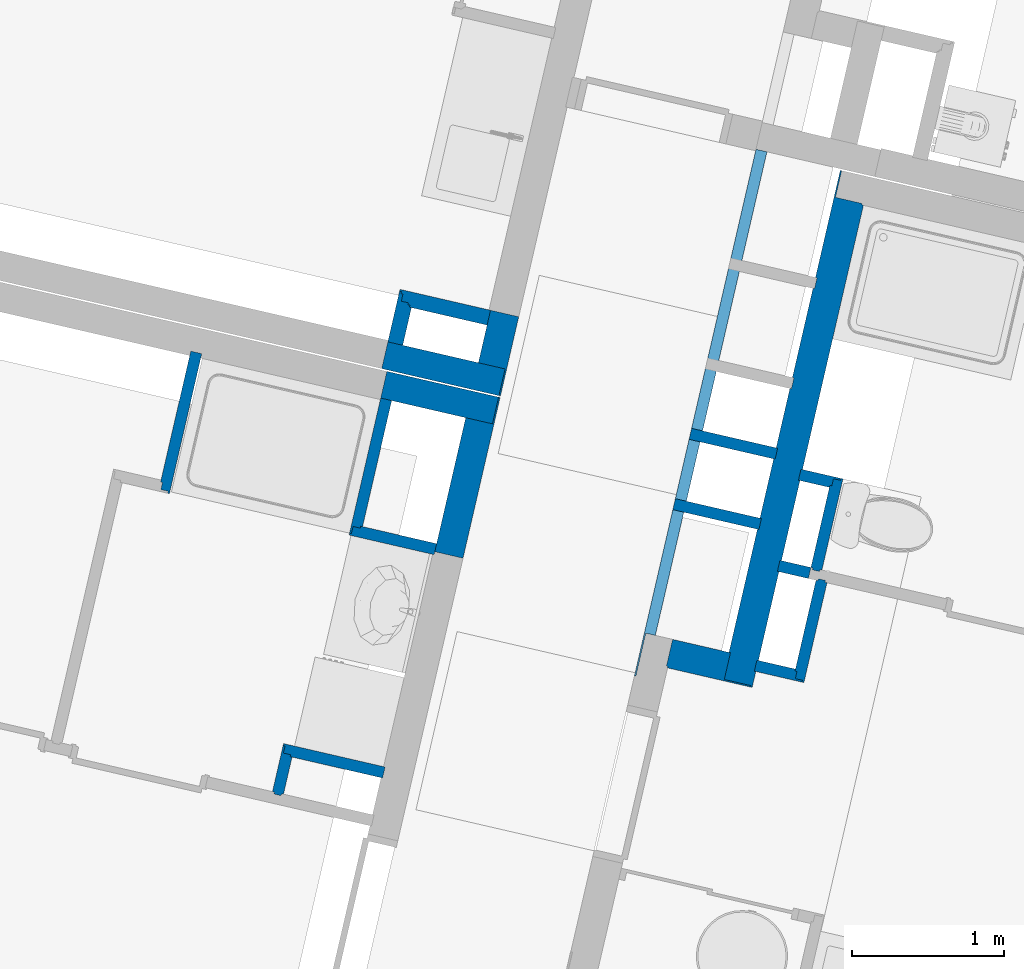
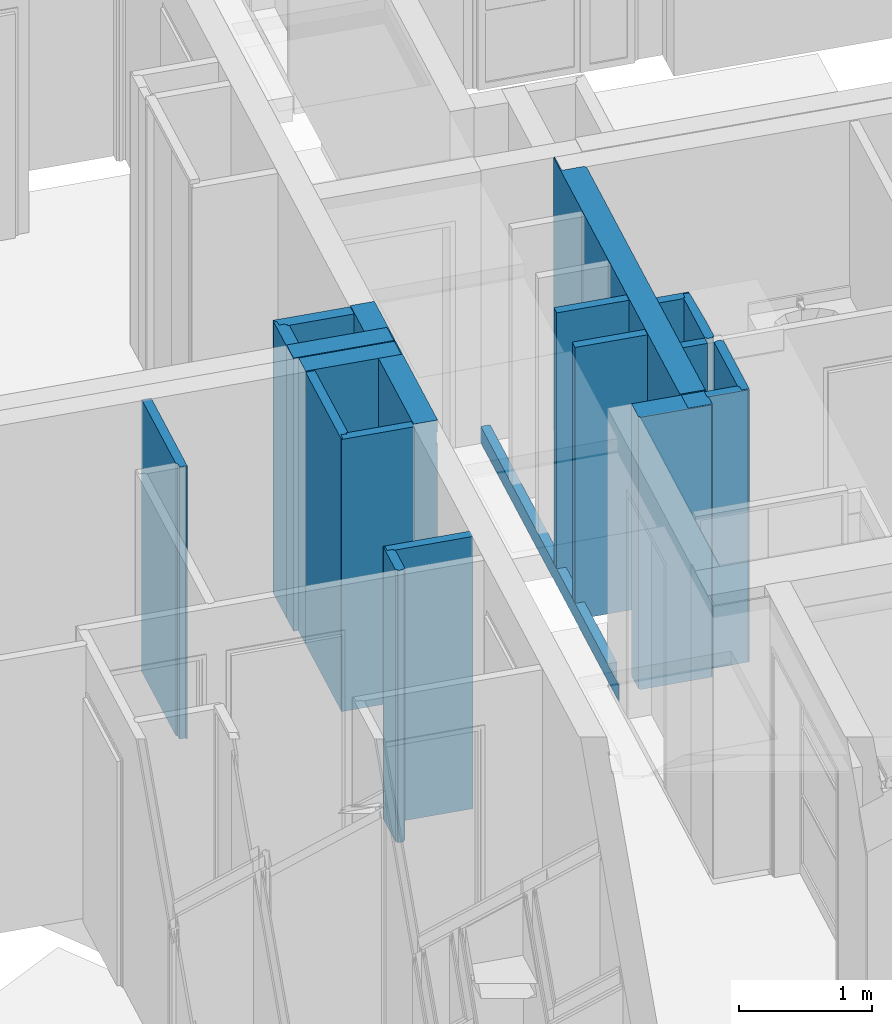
# One storey, part 49 of 119: 21 walls.
"""IFC2X3 building model written with IfcOpenShell, lengths in metres."""

import ifcopenshell
import ifcopenshell.guid

model = None  # the IFC model being written
_history = None  # IfcOwnerHistory: only IFC2X3 demands one
_inside = {}  # id of a spatial element -> (the spatial element, [elements in it])
_under = {}  # id of a project, library or spatial element -> (it, [spatial elements below it])
_declared = {}  # id of a project -> (the project, [libraries it declares])
_typed = {}  # id of a type object -> (the type object, [elements of that type])
_made_of = {}  # id of a material, layer set ... -> (it, [elements and type objects made of it])


def new_model(schema):
    """Start an empty IFC model of exactly this schema.

    Asked for "IFC4X3", IfcOpenShell would pick the latest addendum, in which some entities
    have other attributes; the version numbers below select the first issue.
    IFC2X3 requires an IfcOwnerHistory on every rooted entity: one is made here for all.
    """
    global model, _history
    if schema == "IFC4X3":
        model = ifcopenshell.file(schema_version=(4, 3, 0, 0))
    else:
        model = ifcopenshell.file(schema=schema)
    _inside.clear()
    _under.clear()
    _declared.clear()
    _typed.clear()
    _made_of.clear()
    _history = None
    if model.schema == "IFC2X3":
        org = make("IfcOrganization", Name="unknown")
        user = make(
            "IfcPersonAndOrganization",
            ThePerson=make("IfcPerson", FamilyName="unknown"),
            TheOrganization=org,
        )
        app = make(
            "IfcApplication",
            ApplicationDeveloper=org,
            Version="unknown",
            ApplicationFullName="unknown",
            ApplicationIdentifier="unknown",
        )
        _history = make(
            "IfcOwnerHistory",
            OwningUser=user,
            OwningApplication=app,
            ChangeAction="ADDED",
            CreationDate=0,
        )
    return model


def make(cls, **values):
    """One entity of the class cls with the attributes given. An attribute that is None is left unset."""
    return model.create_entity(
        cls, **{name: value for name, value in values.items() if value is not None}
    )


def entity(cls, *values):
    """Any entity or typed value of the class cls, its attributes in the order of the schema. None: left unset."""
    e = model.create_entity(cls)
    for i, value in enumerate(values):
        if value is not None:
            e[i] = value
    return e


def rooted(cls, **values):
    """An entity with a GlobalId (a new one), such as an element, a storey or a relation."""
    return make(cls, GlobalId=ifcopenshell.guid.new(), OwnerHistory=_history, **values)


def si_unit(unit_type, name, prefix=None):
    """IfcSIUnit, for example si_unit("LENGTHUNIT", "METRE", prefix="MILLI")."""
    return make("IfcSIUnit", UnitType=unit_type, Prefix=prefix, Name=name)


def converted_unit(unit_type, name, factor, base, dimensions=None, offset=None):
    """IfcConversionBasedUnit, such as the inch: factor (a typed value) times the base unit."""
    return make(
        "IfcConversionBasedUnit"
        if offset is None
        else "IfcConversionBasedUnitWithOffset",
        ConversionOffset=offset,
        Dimensions=None
        if dimensions is None
        else entity("IfcDimensionalExponents", *dimensions),
        UnitType=unit_type,
        Name=name,
        ConversionFactor=make(
            "IfcMeasureWithUnit", ValueComponent=factor, UnitComponent=base
        ),
    )


def derived_unit(unit_type, elements):
    """IfcDerivedUnit: a product of units, each with its exponent."""
    return make(
        "IfcDerivedUnit",
        Elements=[
            make("IfcDerivedUnitElement", Unit=unit, Exponent=power)
            for unit, power in elements
        ],
        UnitType=unit_type,
    )


def money_unit(currency):
    """IfcMonetaryUnit."""
    return make("IfcMonetaryUnit", Currency=currency)


def assignment(units):
    """IfcUnitAssignment: the units of a project."""
    return None if units is None else make("IfcUnitAssignment", Units=units)


def point(xyz):
    """IfcCartesianPoint."""
    return None if xyz is None else make("IfcCartesianPoint", Coordinates=xyz)


def direction(xyz):
    """IfcDirection."""
    return None if xyz is None else make("IfcDirection", DirectionRatios=xyz)


def frame(location, z_axis=None, x_axis=None):
    """IfcAxis2Placement3D, a coordinate frame: its origin and axes. An axis left out is left unset."""
    return make(
        "IfcAxis2Placement3D",
        Location=point(location),
        Axis=direction(z_axis),
        RefDirection=direction(x_axis),
    )


def origin_with_axes():
    """The frame at (0, 0, 0) with the z axis (0, 0, 1) and the x axis (1, 0, 0) written out."""
    return frame((0.0, 0.0, 0.0), z_axis=(0.0, 0.0, 1.0), x_axis=(1.0, 0.0, 0.0))


def place(relative_to, where):
    """IfcLocalPlacement: puts the frame where relative to a parent placement (None: the world)."""
    return make(
        "IfcLocalPlacement", PlacementRelTo=relative_to, RelativePlacement=where
    )


def context(
    kind, dimensions, precision=None, world=None, true_north=None, identifier=None
):
    """IfcGeometricRepresentationContext, for example the 3D "Model" context."""
    return make(
        "IfcGeometricRepresentationContext",
        ContextIdentifier=identifier,
        ContextType=kind,
        CoordinateSpaceDimension=dimensions,
        Precision=precision,
        WorldCoordinateSystem=world,
        TrueNorth=true_north,
    )


def subcontext(parent, identifier, kind, view, scale=None):
    """IfcGeometricRepresentationSubContext, for example "Body" below "Model"."""
    return make(
        "IfcGeometricRepresentationSubContext",
        ContextIdentifier=identifier,
        ContextType=kind,
        ParentContext=parent,
        TargetScale=scale,
        TargetView=view,
    )


def project(units=None, contexts=None):
    """IfcProject with its units and contexts."""
    return rooted(
        "IfcProject",
        Name="project",
        RepresentationContexts=contexts,
        UnitsInContext=assignment(units),
    )


def spatial(cls, under=None, at=None, **own):
    """A site, building, storey or space (cls), placed at a placement, below another one or the project."""
    s = rooted(cls, ObjectPlacement=at, **own)
    if under is not None:
        _under.setdefault(under.id(), (under, []))[1].append(s)
    return s


def faces_of(points, faces, orient=None, outer=None):
    """IfcFace entities. A face is a list of loops; a loop is a list of indices into points, from 0.

    orient and outer hold one flag for each loop. By default every Orientation is true, the
    first loop of a face is its IfcFaceOuterBound and the others are IfcFaceBound.
    """
    made = []
    for i, loops in enumerate(faces):
        bounds = []
        for j, loop in enumerate(loops):
            is_outer = j == 0 if outer is None else outer[i][j]
            bounds.append(
                make(
                    "IfcFaceOuterBound" if is_outer else "IfcFaceBound",
                    Bound=make("IfcPolyLoop", Polygon=[points[k] for k in loop]),
                    Orientation=True if orient is None else orient[i][j],
                )
            )
        made.append(make("IfcFace", Bounds=bounds))
    return made


def faceted_brep(points, faces, orient=None, outer=None, voids=None):
    """IfcFacetedBrep: a solid bounded by flat faces; with voids (closed shells), ...WithVoids."""
    shared = [point(p) for p in points]
    hull = make("IfcClosedShell", CfsFaces=faces_of(shared, faces, orient, outer))
    if voids is None:
        return make("IfcFacetedBrep", Outer=hull)
    return make(
        "IfcFacetedBrepWithVoids",
        Outer=hull,
        Voids=[
            make(cls, CfsFaces=faces_of(shared, fs, o, b)) for cls, fs, o, b in voids
        ],
    )


def shape(context_of_items, identifier, shape_type, items):
    """IfcShapeRepresentation: the items that make up one representation, for example the "Body"."""
    return make(
        "IfcShapeRepresentation",
        ContextOfItems=context_of_items,
        RepresentationIdentifier=identifier,
        RepresentationType=shape_type,
        Items=items,
    )


def material(Name=None, Category=None):
    """IfcMaterial."""
    return make("IfcMaterial", Name=Name, Category=Category)


def material_list(materials):
    """IfcMaterialList."""
    return make("IfcMaterialList", Materials=materials)


def made_of(thing, what):
    """Note that an element or type object is made of a material, layer set ...; save() writes the relation."""
    if what is not None:
        _made_of.setdefault(what.id(), (what, []))[1].append(thing)
    return thing


def type_object(cls, material=None, **own):
    """A type object (cls), such as IfcWallType, which elements share."""
    return made_of(rooted(cls, **own), material)


def element(
    cls,
    number,
    at=None,
    inside=None,
    cuts=None,
    type_object=None,
    material=None,
    context=None,
    identifier="Body",
    shape_type=None,
    held_by="IfcProductDefinitionShape",
    body=None,
    shapes=None,
    **own,
):
    """One element of the class cls, such as IfcWall. Its Tag is "e" and its number.

    at: its placement. inside: the storey or other place that contains it. cuts: it is an
    opening in that element (IfcRelVoidsElement). A single representation is given by context,
    identifier, shape_type and body (its items); several are given by shapes. held_by: the class
    of the entity that holds the representations. save() writes the other relations.
    """
    e = rooted(cls, Tag="e%d" % number, ObjectPlacement=at, **own)
    if body is not None:
        shapes = [shape(context, identifier, shape_type, body)]
    if shapes is not None:
        e.Representation = make(held_by, Representations=shapes)
    if inside is not None:
        _inside.setdefault(inside.id(), (inside, []))[1].append(e)
    if cuts is not None:
        rooted(
            "IfcRelVoidsElement", RelatingBuildingElement=cuts, RelatedOpeningElement=e
        )
    if type_object is not None:
        _typed.setdefault(type_object.id(), (type_object, []))[1].append(e)
    return made_of(e, material)


def aggregate(whole, parts):
    """IfcRelAggregates: a whole, such as a stair, and the parts it consists of."""
    return rooted("IfcRelAggregates", RelatingObject=whole, RelatedObjects=parts)


def save(model, path):
    """Write the relations noted so far, then the file.

    IfcRelAggregates (storeys below a building ...), IfcRelContainedInSpatialStructure (elements
    in a storey), IfcRelDefinesByType, IfcRelAssociatesMaterial and IfcRelDeclares: one each for
    every whole, place, type object, material and project.
    """
    for whole, parts in _under.values():
        aggregate(whole, parts)
    for where, things in _inside.values():
        rooted(
            "IfcRelContainedInSpatialStructure",
            RelatedElements=things,
            RelatingStructure=where,
        )
    for kind, things in _typed.values():
        rooted("IfcRelDefinesByType", RelatedObjects=things, RelatingType=kind)
    for what, things in _made_of.values():
        rooted("IfcRelAssociatesMaterial", RelatedObjects=things, RelatingMaterial=what)
    for by, libraries in _declared.values():
        rooted("IfcRelDeclares", RelatingContext=by, RelatedDefinitions=libraries)
    model.write(path)


model = new_model("IFC2X3")

# Units and contexts
model_context = context("Model", 3, precision=1e-05, world=origin_with_axes(), true_north=direction((0.0, 1.0)))
body_context = subcontext(model_context, "Body", "Model", "MODEL_VIEW")
ifc_project = project(units=[si_unit("LENGTHUNIT", "METRE"), si_unit("AREAUNIT", "SQUARE_METRE"), si_unit("VOLUMEUNIT", "CUBIC_METRE"), converted_unit("PLANEANGLEUNIT", "DEGREE", entity("IfcPlaneAngleMeasure", 0.0174532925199), si_unit("PLANEANGLEUNIT", "RADIAN"), dimensions=[0, 0, 0, 0, 0, 0, 0]), si_unit("SOLIDANGLEUNIT", "STERADIAN"), money_unit("EUR"), converted_unit("TIMEUNIT", "Year", entity("IfcTimeMeasure", 31556926.0), si_unit("TIMEUNIT", "SECOND"), dimensions=[0, 0, 1, 0, 0, 0, 0]), si_unit("MASSUNIT", "GRAM", prefix="KILO"), si_unit("THERMODYNAMICTEMPERATUREUNIT", "DEGREE_CELSIUS"), si_unit("LUMINOUSINTENSITYUNIT", "LUMEN"), si_unit("ENERGYUNIT", "JOULE", prefix="MEGA"), derived_unit("THERMALCONDUCTANCEUNIT", [(si_unit("POWERUNIT", "WATT"), 1), (si_unit("LENGTHUNIT", "METRE"), -1), (si_unit("THERMODYNAMICTEMPERATUREUNIT", "KELVIN"), -1)]), derived_unit("SPECIFICHEATCAPACITYUNIT", [(si_unit("ENERGYUNIT", "JOULE"), 1), (si_unit("MASSUNIT", "GRAM", prefix="KILO"), -1), (si_unit("THERMODYNAMICTEMPERATUREUNIT", "KELVIN"), -1)]), derived_unit("MASSDENSITYUNIT", [(si_unit("MASSUNIT", "GRAM", prefix="KILO"), 1), (si_unit("VOLUMEUNIT", "CUBIC_METRE"), -1)])], contexts=[model_context])

# Site, building, storey
site_placement = place(None, origin_with_axes())
site = spatial("IfcSite", under=ifc_project, at=site_placement, Name="Site", CompositionType="ELEMENT")
building_placement = place(site_placement, origin_with_axes())
building = spatial("IfcBuilding", under=site, at=building_placement, Name="Bâtiment", CompositionType="ELEMENT")
storey_placement = place(building_placement, origin_with_axes())
storey = spatial("IfcBuildingStorey", under=building, at=storey_placement, Name="Rez-de-chaussée", CompositionType="ELEMENT", Elevation=0.0)

# Walls
ifc_material_1 = material(Name="Cloison - Carreaux de plâtre")
wall_type_1 = type_object("IfcWallType", Name="Cloison - Carreaux de plâtre 74", PredefinedType="USERDEFINED")
wall_1_placement = place(storey_placement, frame((-9.20392746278, 0.883172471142, 0.0), z_axis=(0.0, 0.0, 1.0), x_axis=(0.224876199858, 0.974387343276, 0.0)))
element("IfcWall", 1, at=wall_1_placement, inside=storey, type_object=wall_type_1, material=ifc_material_1, Name="Carreaux de plâtre 8cm", ObjectType="PARTITIONING", context=body_context, shape_type="Brep", body=[
    faceted_brep([(3.25805722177, 0.0, 0.15), (-0.29, 0.0, 0.15), (-0.29, -0.00999999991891, 0.15), (0.0, -0.00999999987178, 0.15), (0.0, -0.074, 0.15), (3.25805722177, -0.074, 0.15), (3.25805722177, 0.0, 0.0), (-0.29, 0.0, 0.0), (-0.29, -0.00999999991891, 0.0), (0.0, -0.00999999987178, 0.0), (0.0, -0.074, 0.0), (3.25805722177, -0.074, 0.0)], [[[0, 1, 2, 3, 4, 5]], [[0, 6, 7, 1]], [[1, 7, 8, 2]], [[8, 9, 3, 2]], [[3, 9, 10, 4]], [[11, 5, 4, 10]], [[5, 11, 6, 0]], [[11, 10, 9, 8, 7, 6]]]),
])
wall_2_placement = place(storey_placement, frame((-8.89404805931, 2.22587823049, 0.0), z_axis=(0.0, 0.0, 1.0), x_axis=(0.974387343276, -0.224876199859, 0.0)))
element("IfcWall", 2, at=wall_2_placement, inside=storey, type_object=wall_type_1, material=ifc_material_1, Name="Carreaux de plâtre 8cm", ObjectType="PARTITIONING", context=body_context, shape_type="Brep", body=[
    faceted_brep([(0.580000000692, 0.0, 0.0), (0.0739999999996, 0.0, 0.0), (0.0739999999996, 0.0, 0.15), (0.0, 0.0, 0.15), (0.0, 0.0, 2.5), (0.580000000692, 0.0, 2.5), (0.580000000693, -0.074, 0.0), (0.0739999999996, -0.074, 0.0), (0.0739999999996, -0.074, 0.15), (0.0, -0.074, 0.15), (0.0, -0.074, 2.5), (0.580000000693, -0.074, 2.5)], [[[0, 1, 2, 3, 4, 5]], [[0, 6, 7, 1]], [[7, 8, 2, 1]], [[8, 9, 3, 2]], [[10, 4, 3, 9]], [[10, 11, 5, 4]], [[11, 6, 0, 5]], [[10, 9, 8, 7, 6, 11]]]),
])
wall_3_placement = place(storey_placement, frame((-9.00063937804, 1.76401862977, 0.0), z_axis=(0.0, 0.0, 1.0), x_axis=(0.974387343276, -0.224876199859, 0.0)))
element("IfcWall", 3, at=wall_3_placement, inside=storey, type_object=wall_type_1, material=ifc_material_1, Name="Carreaux de plâtre 8cm", ObjectType="PARTITIONING", context=body_context, shape_type="Brep", body=[
    faceted_brep([(0.580000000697, 0.0, 0.0), (0.0740000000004, 0.0, 0.0), (0.0740000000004, 0.0, 0.15), (0.0, 0.0, 0.15), (0.0, 0.0, 2.5), (0.580000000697, 0.0, 2.5), (0.580000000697, -0.074, 0.0), (0.0740000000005, -0.074, 0.0), (0.0740000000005, -0.074, 0.15), (0.0, -0.074, 0.15), (0.0, -0.074, 2.5), (0.580000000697, -0.074, 2.5)], [[[0, 1, 2, 3, 4, 5]], [[0, 6, 7, 1]], [[7, 8, 2, 1]], [[8, 9, 3, 2]], [[10, 4, 3, 9]], [[10, 11, 5, 4]], [[11, 6, 0, 5]], [[10, 9, 8, 7, 6, 11]]]),
])
ifc_material_2 = material(Name="Finition int - Plaque de plâtre")
ifc_material_3 = material(Name="Isolation - Laine de roche")
ifc_material_list_1 = material_list([ifc_material_2, ifc_material_3, ifc_material_2])
wall_type_2 = type_object("IfcWallType", Name="3 - Cloison 72mm Placostil 74", PredefinedType="USERDEFINED")
wall_4_placement = place(storey_placement, frame((-7.98862991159, 1.2841511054, 0.0), z_axis=(0.0, 0.0, 1.0), x_axis=(-0.224876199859, -0.974387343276, 0.0)))
element("IfcWall", 4, at=wall_4_placement, inside=storey, type_object=wall_type_2, material=ifc_material_list_1, Name="Cloison Placostil 72/48", ObjectType="PARTITIONING", context=body_context, shape_type="Brep", body=[
    faceted_brep([(0.746569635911, -0.013, 2.5), (0.746569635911, 0.0, 2.5), (0.074000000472, 0.0, 2.5), (0.0740000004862, -0.013, 2.5), (0.746569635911, -0.013, 0.0), (0.746569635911, 0.0, 0.0), (0.074000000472, 0.0, 0.0), (0.0740000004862, -0.013, 0.0)], [[[0, 1, 2, 3]], [[1, 0, 4, 5]], [[1, 5, 6, 2]], [[7, 3, 2, 6]], [[4, 0, 3, 7]], [[5, 4, 7, 6]]]),
    faceted_brep([(0.733569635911, -0.061, 2.5), (0.733569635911, -0.013, 2.5), (0.0610000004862, -0.013, 2.5), (0.0610000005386, -0.061, 2.5), (0.733569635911, -0.061, 0.0), (0.733569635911, -0.013, 0.0), (0.0610000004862, -0.013, 0.0), (0.0610000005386, -0.061, 0.0)], [[[0, 1, 2, 3]], [[1, 0, 4, 5]], [[1, 5, 6, 2]], [[7, 3, 2, 6]], [[4, 0, 3, 7]], [[5, 4, 7, 6]]]),
    faceted_brep([(0.685569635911, -0.074, 2.5), (0.685569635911, -0.061, 2.5), (0.0740000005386, -0.061, 2.5), (0.0740000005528, -0.074, 2.5), (0.685569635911, -0.074, 0.0), (0.685569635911, -0.061, 0.0), (0.0740000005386, -0.061, 0.0), (0.0740000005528, -0.074, 0.0)], [[[0, 1, 2, 3]], [[1, 0, 4, 5]], [[1, 5, 6, 2]], [[7, 3, 2, 6]], [[4, 0, 3, 7]], [[5, 4, 7, 6]]]),
])
wall_5_placement = place(storey_placement, frame((-10.7305608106, -0.0379641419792, 0.0), z_axis=(0.0, 0.0, 1.0), x_axis=(-0.974387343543, 0.224876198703, 0.0)))
element("IfcWall", 5, at=wall_5_placement, inside=storey, type_object=wall_type_2, material=ifc_material_list_1, Name="Cloison Placostil 72/48", ObjectType="PARTITIONING", context=body_context, shape_type="Brep", body=[
    faceted_brep([(0.802999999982, 0.074, 0.0), (0.802999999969, 0.061, 0.0), (0.180000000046, 0.061, 0.0), (0.180000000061, 0.074, 0.0), (0.802999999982, 0.074, 2.5), (0.802999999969, 0.061, 2.5), (0.180000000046, 0.061, 2.5), (0.180000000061, 0.074, 2.5)], [[[0, 1, 2, 3]], [[1, 0, 4, 5]], [[1, 5, 6, 2]], [[7, 3, 2, 6]], [[4, 0, 3, 7]], [[5, 4, 7, 6]]]),
    faceted_brep([(0.850999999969, 0.061, 0.0), (0.850999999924, 0.013, 0.0), (0.179999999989, 0.013, 0.0), (0.180000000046, 0.061, 0.0), (0.850999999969, 0.061, 2.5), (0.850999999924, 0.013, 2.5), (0.179999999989, 0.013, 2.5), (0.180000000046, 0.061, 2.5)], [[[0, 1, 2, 3]], [[1, 0, 4, 5]], [[1, 5, 6, 2]], [[7, 3, 2, 6]], [[4, 0, 3, 7]], [[5, 4, 7, 6]]]),
    faceted_brep([(0.863999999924, 0.013, 0.0), (0.863999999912, 0.0, 0.0), (0.179999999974, 0.0, 0.0), (0.179999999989, 0.013, 0.0), (0.863999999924, 0.013, 2.5), (0.863999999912, 0.0, 2.5), (0.179999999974, 0.0, 2.5), (0.179999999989, 0.013, 2.5)], [[[0, 1, 2, 3]], [[1, 0, 4, 5]], [[1, 5, 6, 2]], [[7, 3, 2, 6]], [[4, 0, 3, 7]], [[5, 4, 7, 6]]]),
])
wall_6_placement = place(storey_placement, frame((-11.5724314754, 0.156328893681, 0.0), z_axis=(0.0, 0.0, 1.0), x_axis=(-0.224876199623, -0.974387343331, 0.0)))
element("IfcWall", 6, at=wall_6_placement, inside=storey, type_object=wall_type_2, material=ifc_material_list_1, Name="Cloison Placostil 72/48", ObjectType="PARTITIONING", context=body_context, shape_type="Brep", body=[
    faceted_brep([(0.324000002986, 0.074, 0.0), (0.324000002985, 0.061, 0.0), (0.0739999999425, 0.061, 0.0), (0.0739999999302, 0.074, 0.0), (0.324000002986, 0.074, 2.5), (0.324000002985, 0.061, 2.5), (0.0739999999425, 0.061, 2.5), (0.0739999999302, 0.074, 2.5)], [[[0, 1, 2, 3]], [[1, 0, 4, 5]], [[1, 5, 6, 2]], [[7, 3, 2, 6]], [[4, 0, 3, 7]], [[5, 4, 7, 6]]]),
    faceted_brep([(0.337000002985, 0.061, 0.0), (0.337000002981, 0.013, 0.0), (0.0609999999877, 0.013, 0.0), (0.0609999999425, 0.061, 0.0), (0.337000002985, 0.061, 2.5), (0.337000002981, 0.013, 2.5), (0.0609999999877, 0.013, 2.5), (0.0609999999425, 0.061, 2.5)], [[[0, 1, 2, 3]], [[1, 0, 4, 5]], [[1, 5, 6, 2]], [[7, 3, 2, 6]], [[4, 0, 3, 7]], [[5, 4, 7, 6]]]),
    faceted_brep([(0.324000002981, 0.013, 0.0), (0.324000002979, 0.0, 0.0), (0.013, 0.0, 0.0), (0.0129999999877, 0.013, 0.0), (0.324000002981, 0.013, 2.5), (0.324000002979, 0.0, 2.5), (0.013, 0.0, 2.5), (0.0129999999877, 0.013, 2.5)], [[[0, 1, 2, 3]], [[1, 0, 4, 5]], [[1, 5, 6, 2]], [[7, 3, 2, 6]], [[4, 0, 3, 7]], [[5, 4, 7, 6]]]),
])
wall_7_placement = place(storey_placement, frame((-8.15651565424, 0.556703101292, 0.0), z_axis=(0.0, 0.0, 1.0), x_axis=(-0.974387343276, 0.224876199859, 0.0)))
element("IfcWall", 7, at=wall_7_placement, inside=storey, type_object=wall_type_2, material=ifc_material_list_1, Name="Cloison Placostil 72/48", ObjectType="PARTITIONING", context=body_context, shape_type="Brep", body=[
    faceted_brep([(0.013, -0.013, 2.5), (0.333999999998, -0.013, 2.5), (0.333999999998, 0.0, 2.5), (0.013, 0.0, 2.5), (0.013, -0.013, 0.0), (0.333999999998, -0.013, 0.0), (0.333999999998, 0.0, 0.0), (0.013, 0.0, 0.0)], [[[0, 1, 2, 3]], [[4, 5, 1, 0]], [[2, 1, 5, 6]], [[3, 2, 6, 7]], [[4, 0, 3, 7]], [[7, 6, 5, 4]]]),
    faceted_brep([(0.061, -0.061, 2.5), (0.333999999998, -0.061, 2.5), (0.333999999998, -0.013, 2.5), (0.061, -0.013, 2.5), (0.061, -0.061, 0.0), (0.333999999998, -0.061, 0.0), (0.333999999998, -0.013, 0.0), (0.061, -0.013, 0.0)], [[[0, 1, 2, 3]], [[4, 5, 1, 0]], [[2, 1, 5, 6]], [[3, 2, 6, 7]], [[4, 0, 3, 7]], [[7, 6, 5, 4]]]),
    faceted_brep([(0.074, -0.074, 2.5), (0.333999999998, -0.074, 2.5), (0.333999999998, -0.061, 2.5), (0.074, -0.061, 2.5), (0.074, -0.074, 0.0), (0.333999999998, -0.074, 0.0), (0.333999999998, -0.061, 0.0), (0.074, -0.061, 0.0)], [[[0, 1, 2, 3]], [[4, 5, 1, 0]], [[2, 1, 5, 6]], [[3, 2, 6, 7]], [[4, 0, 3, 7]], [[7, 6, 5, 4]]]),
])
wall_8_placement = place(storey_placement, frame((-12.3216051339, 1.79729698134, 0.0), z_axis=(0.0, 0.0, 1.0), x_axis=(0.224876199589, 0.974387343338, 0.0)))
element("IfcWall", 8, at=wall_8_placement, inside=storey, type_object=wall_type_2, material=ifc_material_list_1, Name="Cloison Placostil 72/48", ObjectType="PARTITIONING", context=body_context, shape_type="Brep", body=[
    faceted_brep([(0.0609999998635, 0.074, 0.0), (0.94299999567, 0.074, 0.0), (0.94299999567, 0.061, 0.0), (0.0609999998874, 0.061, 0.0), (0.0609999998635, 0.074, 2.5), (0.94299999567, 0.074, 2.5), (0.94299999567, 0.061, 2.5), (0.0609999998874, 0.061, 2.5)], [[[0, 1, 2, 3]], [[4, 5, 1, 0]], [[2, 1, 5, 6]], [[3, 2, 6, 7]], [[4, 0, 3, 7]], [[7, 6, 5, 4]]]),
    faceted_brep([(0.0129999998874, 0.061, 0.0), (0.94299999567, 0.061, 0.0), (0.94299999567, 0.013, 0.0), (0.012999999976, 0.013, 0.0), (0.0129999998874, 0.061, 2.5), (0.94299999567, 0.061, 2.5), (0.94299999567, 0.013, 2.5), (0.012999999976, 0.013, 2.5)], [[[0, 1, 2, 3]], [[4, 5, 1, 0]], [[2, 1, 5, 6]], [[3, 2, 6, 7]], [[4, 0, 3, 7]], [[7, 6, 5, 4]]]),
    faceted_brep([(0.0, 0.013, 0.0), (0.94299999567, 0.013, 0.0), (0.94299999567, 0.0, 0.0), (0.0, 0.0, 0.0), (0.0, 0.013, 2.5), (0.94299999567, 0.013, 2.5), (0.94299999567, 0.0, 2.5), (0.0, 0.0, 2.5)], [[[0, 1, 2, 3]], [[4, 5, 1, 0]], [[2, 1, 5, 6]], [[3, 2, 6, 7]], [[4, 0, 3, 7]], [[7, 6, 5, 4]]]),
])
ifc_material_4 = material(Name="Finition int - Enduit plâtre")
ifc_material_5 = material(Name="Béton")
ifc_material_list_2 = material_list([ifc_material_4, ifc_material_5, ifc_material_4])
wall_type_3 = type_object("IfcWallType", Name="2 - Murs Béton 18 + Enduit 2 Faces 200", PredefinedType="USERDEFINED")
wall_9_placement = place(storey_placement, frame((-7.91811591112, 3.91985888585, 0.0), z_axis=(0.0, 0.0, 1.0), x_axis=(-0.224876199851, -0.974387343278, 0.0)))
element("IfcWall", 9, at=wall_9_placement, inside=storey, type_object=wall_type_3, material=ifc_material_list_2, Name="M_Ext-008", ObjectType="SOLIDWALL", context=body_context, shape_type="Brep", body=[
    faceted_brep([(0.190000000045, 0.19, 2.51), (0.190000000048, 0.2, 2.51), (0.190000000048, 0.2, 0.0), (0.190000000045, 0.19, 0.0), (3.2480572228, 0.2, 2.51), (3.2480572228, 0.19, 2.51), (3.2480572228, 0.2, 2.5), (3.43805723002, 0.2, 2.5), (3.43805723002, 0.2, 0.0), (2.65805722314, 0.2, 0.0), (2.65805722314, 0.2, 2.5), (2.58405722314, 0.2, 2.5), (2.58405722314, 0.2, 0.0), (2.04400000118, 0.2, 0.0), (2.04400000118, 0.2, 2.5), (1.97000000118, 0.2, 2.5), (1.97000000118, 0.2, 0.0), (1.97000000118, 0.19, 0.0), (1.97000000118, 0.19, 2.5), (2.04400000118, 0.19, 2.5), (2.04400000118, 0.19, 0.0), (2.58405722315, 0.19, 0.0), (2.58405722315, 0.19, 2.5), (2.65805722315, 0.19, 2.5), (2.65805722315, 0.19, 0.0), (3.43805723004, 0.19, 0.0), (3.43805723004, 0.19, 2.5), (3.2480572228, 0.19, 2.5)], [[[0, 1, 2, 3]], [[4, 1, 0, 5]], [[1, 4, 6, 7, 8, 9, 10, 11, 12, 13, 14, 15, 16, 2]], [[2, 16, 17, 3]], [[5, 0, 3, 17, 18, 19, 20, 21, 22, 23, 24, 25, 26, 27]], [[4, 5, 27, 6]], [[6, 27, 26, 7]], [[26, 25, 8, 7]], [[25, 24, 9, 8]], [[23, 10, 9, 24]], [[22, 11, 10, 23]], [[21, 12, 11, 22]], [[21, 20, 13, 12]], [[19, 14, 13, 20]], [[15, 14, 19, 18]], [[17, 16, 15, 18]]]),
    faceted_brep([(0.180000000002, 0.01, 2.51), (0.180000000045, 0.19, 2.51), (0.180000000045, 0.19, 0.0), (0.180000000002, 0.01, 0.0), (3.2480572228, 0.19, 2.51), (3.2480572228, 0.01, 2.51), (3.2480572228, 0.19, 2.5), (3.42805722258, 0.19, 2.5), (3.42805722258, 0.19, 0.0), (3.42805722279, 0.01, 0.0), (3.42805722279, 0.01, 2.5), (3.2480572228, 0.01, 2.5)], [[[0, 1, 2, 3]], [[4, 1, 0, 5]], [[1, 4, 6, 7, 8, 2]], [[2, 8, 9, 3]], [[5, 0, 3, 9, 10, 11]], [[4, 5, 11, 6]], [[11, 10, 7, 6]], [[9, 8, 7, 10]]]),
    faceted_brep([(1.49011025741e-10, 0.0, 2.51), (1.5139445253e-10, 0.01, 2.51), (1.5139445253e-10, 0.01, 0.0), (1.49011025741e-10, 0.0, 0.0), (3.2480572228, 0.01, 2.51), (3.2480572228, 0.0, 2.51), (3.24805722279, 0.01, 2.5), (3.24805722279, 0.01, 0.0), (2.41805722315, 0.01, 0.0), (2.41805722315, 0.01, 2.5), (2.34405722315, 0.01, 2.5), (2.34405722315, 0.01, 0.0), (1.94405722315, 0.01, 0.0), (1.94405722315, 0.01, 2.5), (1.87005722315, 0.01, 2.5), (1.87005722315, 0.01, 0.0), (1.47005722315, 0.01, 0.0), (1.47005722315, 0.01, 2.5), (1.39605722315, 0.01, 2.5), (1.39605722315, 0.01, 0.0), (0.796057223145, 0.01, 0.0), (0.796057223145, 0.01, 2.5), (0.722057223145, 0.01, 2.5), (0.722057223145, 0.01, 0.0), (0.722057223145, 0.0, 0.0), (0.722057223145, 0.0, 2.5), (0.796057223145, 0.0, 2.5), (0.796057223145, 0.0, 0.0), (1.39605722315, 0.0, 0.0), (1.39605722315, 0.0, 2.5), (1.47005722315, 0.0, 2.5), (1.47005722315, 0.0, 0.0), (1.87005722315, 0.0, 0.0), (1.87005722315, 0.0, 2.5), (1.94405722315, 0.0, 2.5), (1.94405722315, 0.0, 0.0), (2.34405722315, 0.0, 0.0), (2.34405722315, 0.0, 2.5), (2.41805722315, 0.0, 2.5), (2.41805722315, 0.0, 0.0), (3.2480572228, 0.0, 0.0), (3.2480572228, 0.0, 2.5)], [[[0, 1, 2, 3]], [[4, 1, 0, 5]], [[1, 4, 6, 7, 8, 9, 10, 11, 12, 13, 14, 15, 16, 17, 18, 19, 20, 21, 22, 23, 2]], [[2, 23, 24, 3]], [[5, 0, 3, 24, 25, 26, 27, 28, 29, 30, 31, 32, 33, 34, 35, 36, 37, 38, 39, 40, 41]], [[4, 5, 41, 6]], [[40, 7, 6, 41]], [[40, 39, 8, 7]], [[38, 9, 8, 39]], [[37, 10, 9, 38]], [[36, 11, 10, 37]], [[12, 11, 36, 35]], [[34, 13, 12, 35]], [[33, 14, 13, 34]], [[32, 15, 14, 33]], [[16, 15, 32, 31]], [[30, 17, 16, 31]], [[29, 18, 17, 30]], [[28, 19, 18, 29]], [[20, 19, 28, 27]], [[26, 21, 20, 27]], [[25, 22, 21, 26]], [[24, 23, 22, 25]]]),
])
wall_type_4 = type_object("IfcWallType", Name="3 - Cloison Gaine Technique 72mm 74", PredefinedType="USERDEFINED")
wall_10_placement = place(storey_placement, frame((-8.49920887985, 1.40198623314, 0.0), z_axis=(0.0, 0.0, 1.0), x_axis=(0.974387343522, -0.224876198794, 0.0)))
element("IfcWall", 10, at=wall_10_placement, inside=storey, type_object=wall_type_4, material=ifc_material_list_1, Name="Cloison Placostil 72/48", ObjectType="PARTITIONING", context=body_context, shape_type="Brep", body=[
    faceted_brep([(0.190000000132, -0.013, 2.5), (0.399000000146, -0.013, 2.5), (0.399000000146, 0.0, 2.5), (0.190000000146, 0.0, 2.5), (0.190000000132, -0.013, 0.0), (0.399000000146, -0.013, 0.0), (0.399000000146, 0.0, 0.0), (0.190000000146, 0.0, 0.0)], [[[0, 1, 2, 3]], [[4, 5, 1, 0]], [[2, 1, 5, 6]], [[3, 2, 6, 7]], [[4, 0, 3, 7]], [[7, 6, 5, 4]]]),
    faceted_brep([(0.19000000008, -0.061, 2.5), (0.399000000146, -0.061, 2.5), (0.399000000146, -0.013, 2.5), (0.190000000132, -0.013, 2.5), (0.19000000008, -0.061, 0.0), (0.399000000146, -0.061, 0.0), (0.399000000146, -0.013, 0.0), (0.190000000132, -0.013, 0.0)], [[[0, 1, 2, 3]], [[4, 5, 1, 0]], [[2, 1, 5, 6]], [[3, 2, 6, 7]], [[4, 0, 3, 7]], [[7, 6, 5, 4]]]),
    faceted_brep([(0.190000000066, -0.074, 2.5), (0.399000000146, -0.074, 2.5), (0.399000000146, -0.061, 2.5), (0.19000000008, -0.061, 2.5), (0.190000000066, -0.074, 0.0), (0.399000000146, -0.074, 0.0), (0.399000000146, -0.061, 0.0), (0.19000000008, -0.061, 0.0)], [[[0, 1, 2, 3]], [[4, 5, 1, 0]], [[2, 1, 5, 6]], [[3, 2, 6, 7]], [[4, 0, 3, 7]], [[7, 6, 5, 4]]]),
])
wall_11_placement = place(storey_placement, frame((-8.0383236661, 1.29561979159, 0.0), z_axis=(0.0, 0.0, 1.0), x_axis=(0.224876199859, 0.974387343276, 0.0)))
element("IfcWall", 11, at=wall_11_placement, inside=storey, type_object=wall_type_4, material=ifc_material_list_1, Name="Cloison Placostil 72/48", ObjectType="PARTITIONING", context=body_context, shape_type="Brep", body=[
    faceted_brep([(0.553057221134, 0.074, 0.0), (0.553057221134, 0.061, 0.0), (-5.94350568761e-10, 0.061, 0.0), (-6.085481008e-10, 0.074, 0.0), (0.553057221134, 0.074, 2.5), (0.553057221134, 0.061, 2.5), (-5.94350568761e-10, 0.061, 2.5), (-6.085481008e-10, 0.074, 2.5)], [[[0, 1, 2, 3]], [[1, 0, 4, 5]], [[1, 5, 6, 2]], [[7, 3, 2, 6]], [[4, 0, 3, 7]], [[5, 4, 7, 6]]]),
    faceted_brep([(0.601057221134, 0.061, 0.0), (0.601057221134, 0.013, 0.0), (-0.0130000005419, 0.013, 0.0), (-0.0130000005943, 0.061, 0.0), (0.601057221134, 0.061, 2.5), (0.601057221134, 0.013, 2.5), (-0.0130000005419, 0.013, 2.5), (-0.0130000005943, 0.061, 2.5)], [[[0, 1, 2, 3]], [[1, 0, 4, 5]], [[1, 5, 6, 2]], [[7, 3, 2, 6]], [[4, 0, 3, 7]], [[5, 4, 7, 6]]]),
    faceted_brep([(0.614057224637, 0.0129999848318, 2.31), (0.614057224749, 0.0, 2.31), (0.614057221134, 0.0, 0.0), (0.614057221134, 0.013, 0.0), (0.199000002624, 2.66972222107e-09, 2.31), (0.199000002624, 2.66972222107e-09, 2.5), (-5.27730525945e-10, 0.0, 2.5), (-5.27730525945e-10, 0.0, 0.0), (-5.41928057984e-10, 0.013, 0.0), (0.614057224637, 0.0129999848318, 2.5), (-5.41928057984e-10, 0.013, 2.5)], [[[0, 1, 2, 3]], [[4, 1, 0]], [[4, 5, 6, 7, 2, 1]], [[3, 2, 7, 8]], [[9, 0, 3, 8, 10]], [[0, 9, 5, 4]], [[5, 9, 10, 6]], [[10, 8, 7, 6]]]),
])
wall_12_placement = place(storey_placement, frame((-7.90023681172, 1.89394937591, 0.0), z_axis=(0.0, 0.0, 1.0), x_axis=(-0.974387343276, 0.224876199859, 0.0)))
element("IfcWall", 12, at=wall_12_placement, inside=storey, type_object=wall_type_4, material=ifc_material_list_1, Name="Cloison Placostil 72/48", ObjectType="PARTITIONING", context=body_context, shape_type="Brep", body=[
    faceted_brep([(0.283000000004, 0.074, 0.0), (0.283000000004, 0.061, 0.0), (0.074, 0.061, 0.0), (0.074, 0.074, 0.0), (0.283000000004, 0.074, 2.5), (0.283000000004, 0.061, 2.5), (0.074, 0.061, 2.5), (0.074, 0.074, 2.5)], [[[0, 1, 2, 3]], [[1, 0, 4, 5]], [[1, 5, 6, 2]], [[7, 3, 2, 6]], [[4, 0, 3, 7]], [[5, 4, 7, 6]]]),
    faceted_brep([(0.283000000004, 0.061, 0.0), (0.283000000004, 0.013, 0.0), (0.061, 0.013, 0.0), (0.061, 0.061, 0.0), (0.283000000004, 0.061, 2.5), (0.283000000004, 0.013, 2.5), (0.061, 0.013, 2.5), (0.061, 0.061, 2.5)], [[[0, 1, 2, 3]], [[1, 0, 4, 5]], [[1, 5, 6, 2]], [[7, 3, 2, 6]], [[4, 0, 3, 7]], [[5, 4, 7, 6]]]),
    faceted_brep([(0.283000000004, 0.013, 0.0), (0.283000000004, 0.0, 0.0), (0.013, 0.0, 0.0), (0.013, 0.013, 0.0), (0.283000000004, 0.013, 2.5), (0.283000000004, 0.0, 2.5), (0.013, 0.0, 2.5), (0.013, 0.013, 2.5)], [[[0, 1, 2, 3]], [[1, 0, 4, 5]], [[1, 5, 6, 2]], [[7, 3, 2, 6]], [[4, 0, 3, 7]], [[5, 4, 7, 6]]]),
])
wall_13_placement = place(storey_placement, frame((-11.125955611, 1.59730144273, 0.0), z_axis=(0.0, 0.0, 1.0), x_axis=(0.224876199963, 0.974387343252, 0.0)))
element("IfcWall", 13, at=wall_13_placement, inside=storey, type_object=wall_type_4, material=ifc_material_list_1, Name="Cloison Placostil 72/48", ObjectType="PARTITIONING", context=body_context, shape_type="Brep", body=[
    faceted_brep([(-0.0609999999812, -0.013, 2.5), (0.848999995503, -0.013, 2.5), (0.848999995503, 0.0, 2.5), (-0.061, 0.0, 2.5), (-0.0609999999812, -0.013, 0.0), (0.848999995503, -0.013, 0.0), (0.848999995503, 0.0, 0.0), (-0.061, 0.0, 0.0)], [[[0, 1, 2, 3]], [[4, 5, 1, 0]], [[2, 1, 5, 6]], [[3, 2, 6, 7]], [[4, 0, 3, 7]], [[7, 6, 5, 4]]]),
    faceted_brep([(-0.0129999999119, -0.061, 2.5), (0.848999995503, -0.061, 2.5), (0.848999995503, -0.013, 2.5), (-0.0129999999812, -0.013, 2.5), (-0.0129999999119, -0.061, 0.0), (0.848999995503, -0.061, 0.0), (0.848999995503, -0.013, 0.0), (-0.0129999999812, -0.013, 0.0)], [[[0, 1, 2, 3]], [[4, 5, 1, 0]], [[2, 1, 5, 6]], [[3, 2, 6, 7]], [[4, 0, 3, 7]], [[7, 6, 5, 4]]]),
    faceted_brep([(1.06901154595e-10, -0.074, 2.5), (0.848999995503, -0.074, 2.5), (0.848999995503, -0.061, 2.5), (0.0, -0.061, 2.5), (1.06901154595e-10, -0.074, 0.0), (0.848999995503, -0.074, 0.0), (0.848999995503, -0.061, 0.0), (0.0, -0.061, 0.0)], [[[0, 1, 2, 3]], [[4, 5, 1, 0]], [[2, 1, 5, 6]], [[3, 2, 6, 7]], [[4, 0, 3, 7]], [[7, 6, 5, 4]]]),
])
wall_14_placement = place(storey_placement, frame((-10.5676316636, 1.46844738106, 0.0), z_axis=(0.0, 0.0, 1.0), x_axis=(-0.974387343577, 0.224876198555, 0.0)))
element("IfcWall", 14, at=wall_14_placement, inside=storey, type_object=wall_type_4, material=ifc_material_list_1, Name="Cloison Placostil 72/48", ObjectType="PARTITIONING", context=body_context, shape_type="Brep", body=[
    faceted_brep([(0.572999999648, 0.074, 0.0), (0.572999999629, 0.061, 0.0), (0.0, 0.061, 0.0), (0.0, 0.074, 0.0), (0.572999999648, 0.074, 2.5), (0.572999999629, 0.061, 2.5), (0.0, 0.061, 2.5), (0.0, 0.074, 2.5)], [[[0, 1, 2, 3]], [[1, 0, 4, 5]], [[1, 5, 6, 2]], [[7, 3, 2, 6]], [[4, 0, 3, 7]], [[5, 4, 7, 6]]]),
    faceted_brep([(0.559999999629, 0.061, 0.0), (0.55999999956, 0.013, 0.0), (0.0, 0.013, 0.0), (0.0, 0.061, 0.0), (0.559999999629, 0.061, 2.5), (0.55999999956, 0.013, 2.5), (0.0, 0.013, 2.5), (0.0, 0.061, 2.5)], [[[0, 1, 2, 3]], [[1, 0, 4, 5]], [[1, 5, 6, 2]], [[7, 3, 2, 6]], [[4, 0, 3, 7]], [[5, 4, 7, 6]]]),
    faceted_brep([(0.51199999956, 0.013, 0.0), (0.511999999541, 0.0, 0.0), (0.0, 0.0, 0.0), (0.0, 0.013, 0.0), (0.51199999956, 0.013, 2.5), (0.511999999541, 0.0, 2.5), (0.0, 0.0, 2.5), (0.0, 0.013, 2.5)], [[[0, 1, 2, 3]], [[1, 0, 4, 5]], [[1, 5, 6, 2]], [[7, 3, 2, 6]], [[4, 0, 3, 7]], [[5, 4, 7, 6]]]),
])
ifc_material_list_3 = material_list([ifc_material_4, ifc_material_5])
wall_type_5 = type_object("IfcWallType", Name="2 - Murs Béton 18 + Enduit 1 Face 190", PredefinedType="USERDEFINED")
wall_15_placement = place(storey_placement, frame((-8.64852667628, 0.754993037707, 0.0), z_axis=(0.0, 0.0, 1.0), x_axis=(-0.974387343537, 0.224876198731, 0.0)))
element("IfcWall", 15, at=wall_15_placement, inside=storey, type_object=wall_type_5, material=ifc_material_list_3, Name="M_Ext-008", ObjectType="SOLIDWALL", context=body_context, shape_type="Brep", body=[
    faceted_brep([(-0.189999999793, 0.18, 0.0), (0.37000000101, 0.18, 0.0), (0.37000000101, 0.18, 2.5), (-0.189999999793, 0.18, 2.5), (-0.189999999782, 0.19, 0.0), (0.37000000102, 0.19, 0.0), (0.37000000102, 0.19, 2.5), (-0.189999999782, 0.19, 2.5)], [[[0, 1, 2, 3]], [[4, 5, 1, 0]], [[2, 1, 5, 6]], [[3, 2, 6, 7]], [[4, 0, 3, 7]], [[6, 5, 4, 7]]]),
    faceted_brep([(-0.01, 0.0, 0.0), (0.380000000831, 0.0, 0.0), (0.380000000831, 0.0, 2.5), (-0.01, 0.0, 2.5), (-0.00999999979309, 0.18, 0.0), (0.38000000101, 0.18, 0.0), (0.38000000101, 0.18, 2.5), (-0.00999999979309, 0.18, 2.5)], [[[0, 1, 2, 3]], [[4, 5, 1, 0]], [[2, 1, 5, 6]], [[3, 2, 6, 7]], [[4, 0, 3, 7]], [[6, 5, 4, 7]]]),
])
wall_16_placement = place(storey_placement, frame((-10.2139014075, 3.00115867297, 0.0), z_axis=(0.0, 0.0, 1.0), x_axis=(-0.22487619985, -0.974387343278, 0.0)))
element("IfcWall", 16, at=wall_16_placement, inside=storey, type_object=wall_type_5, material=ifc_material_list_3, Name="M_Ext-009", ObjectType="SOLIDWALL", context=body_context, shape_type="Brep", body=[
    faceted_brep([(0.534000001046, 0.19, 0.02), (0.0, 0.19, 0.02), (0.0, 0.19, 2.287), (0.534000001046, 0.19, 2.287), (0.0, 0.180000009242, 0.02), (0.534000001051, 0.180000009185, 0.02), (0.0, 0.180000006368, 2.287), (0.534000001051, 0.180000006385, 2.287)], [[[0, 1, 2, 3]], [[4, 1, 0, 5]], [[1, 4, 6, 2]], [[3, 2, 6, 7]], [[5, 0, 3, 7]], [[4, 5, 7, 6]]]),
    faceted_brep([(0.0, 0.180000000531, 2.51), (0.0, 0.19, 2.51), (0.0, 0.19, 2.4), (0.0, 0.180000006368, 2.4), (0.534000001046, 0.19, 2.51), (0.534000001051, 0.180000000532, 2.51), (0.534000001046, 0.19, 2.4), (0.534000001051, 0.180000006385, 2.4)], [[[0, 1, 2, 3]], [[4, 1, 0, 5]], [[1, 4, 6, 2]], [[3, 2, 6, 7]], [[5, 0, 3, 7]], [[4, 5, 7, 6]]]),
    faceted_brep([(0.0, 0.0, 2.51), (0.0, 0.18, 2.51), (0.0, 0.18, 0.0), (0.0, 0.0, 0.0), (0.354000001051, 0.18, 2.51), (0.354000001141, 0.0, 2.51), (0.354000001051, 0.18, 0.0), (0.354000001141, 0.0, 0.0)], [[[0, 1, 2, 3]], [[4, 1, 0, 5]], [[1, 4, 6, 2]], [[7, 3, 2, 6]], [[5, 0, 3, 7]], [[4, 5, 7, 6]]]),
])
wall_17_placement = place(storey_placement, frame((-10.1608443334, 2.43061423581, 0.0), z_axis=(0.0, 0.0, 1.0), x_axis=(-0.22487619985, -0.974387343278, 0.0)))
element("IfcWall", 17, at=wall_17_placement, inside=storey, type_object=wall_type_5, material=ifc_material_list_3, Name="M_Ext-009", ObjectType="SOLIDWALL", context=body_context, shape_type="Brep", body=[
    faceted_brep([(1.08299999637, 0.01, 0.02), (0.0, 0.01, 0.02), (0.0, 0.01, 2.287), (1.08299999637, 0.01, 2.287), (0.0, 2.858692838e-09, 0.02), (1.08299999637, 2.74334688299e-09, 0.02), (0.0, 0.0, 2.287), (1.08299999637, 0.0, 2.287)], [[[0, 1, 2, 3]], [[4, 1, 0, 5]], [[1, 4, 6, 2]], [[3, 2, 6, 7]], [[5, 0, 3, 7]], [[4, 5, 7, 6]]]),
    faceted_brep([(0.0, 0.0, 2.51), (0.0, 0.01, 2.51), (0.0, 0.01, 2.4), (0.0, 0.0, 2.4), (1.08299999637, 0.01, 2.51), (1.08299999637, 0.0, 2.51), (1.08299999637, 0.01, 2.4), (1.08299999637, 0.0, 2.4)], [[[0, 1, 2, 3]], [[4, 1, 0, 5]], [[1, 4, 6, 2]], [[3, 2, 6, 7]], [[5, 0, 3, 7]], [[4, 5, 7, 6]]]),
    faceted_brep([(0.179999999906, -0.18, 2.51), (0.18, 0.0, 2.51), (0.18, 0.0, 0.0), (0.179999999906, -0.18, 0.0), (1.08299999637, 0.0, 2.51), (1.08299999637, -0.18, 2.51), (1.08299999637, 0.0, 0.0), (1.08299999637, -0.18, 0.0)], [[[0, 1, 2, 3]], [[4, 1, 0, 5]], [[1, 4, 6, 2]], [[2, 6, 7, 3]], [[5, 0, 3, 7]], [[4, 5, 7, 6]]]),
])
wall_type_6 = type_object("IfcWallType", Name="Béton 180", PredefinedType="USERDEFINED")
wall_18_placement = place(storey_placement, frame((-10.1608443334, 2.43061423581, 0.0), z_axis=(0.0, 0.0, 1.0), x_axis=(-0.974387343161, 0.224876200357, 0.0)))
element("IfcWall", 18, at=wall_18_placement, inside=storey, type_object=wall_type_6, material=ifc_material_5, Name="M_Ext-009", ObjectType="SOLIDWALL", context=body_context, shape_type="Brep", body=[
    faceted_brep([(0.752999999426, 0.0, 0.0), (0.752999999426, 0.0, 2.51), (0.0, 0.0, 2.51), (0.0, 0.0, 0.0), (0.752999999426, 0.18, 0.0), (0.752999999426, 0.18, 2.51), (0.0, 0.18, 2.51), (0.0, 0.18, 0.0)], [[[0, 1, 2, 3]], [[4, 5, 1, 0]], [[5, 6, 2, 1]], [[3, 2, 6, 7]], [[3, 7, 4, 0]], [[7, 6, 5, 4]]]),
])
wall_19_placement = place(storey_placement, frame((-10.3339852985, 2.48083583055, 0.0), z_axis=(0.0, 0.0, 1.0), x_axis=(-0.974387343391, 0.22487619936, 0.0)))
element("IfcWall", 19, at=wall_19_placement, inside=storey, type_object=wall_type_6, material=ifc_material_5, Name="M_Ext-009", ObjectType="SOLIDWALL", context=body_context, shape_type="Brep", body=[
    faceted_brep([(0.609999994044, -0.18, 0.0), (0.609999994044, -0.18, 2.51), (-0.180000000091, -0.18, 2.51), (-0.180000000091, -0.18, 0.0), (0.609999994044, 0.0, 0.0), (0.609999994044, 0.0, 2.51), (-0.18, 0.0, 2.51), (-0.18, 0.0, 0.0)], [[[0, 1, 2, 3]], [[4, 5, 1, 0]], [[5, 6, 2, 1]], [[3, 2, 6, 7]], [[3, 7, 4, 0]], [[7, 6, 5, 4]]]),
])
ifc_material_list_4 = material_list([ifc_material_2, ifc_material_2, ifc_material_3, ifc_material_2, ifc_material_2])
wall_type_7 = type_object("IfcWallType", Name="3 - Cloison Gaine Technique 98mm 100", PredefinedType="USERDEFINED")
wall_20_placement = place(storey_placement, frame((-10.2139014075, 3.00115867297, 0.0), z_axis=(0.0, 0.0, 1.0), x_axis=(-0.974387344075, 0.224876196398, 0.0)))
element("IfcWall", 20, at=wall_20_placement, inside=storey, type_object=wall_type_7, material=ifc_material_list_4, Name="Cloison 98 isolée", ObjectType="PARTITIONING", context=body_context, shape_type="Brep", body=[
    faceted_brep([(0.522999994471, 0.1, 2.5), (3.54308582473e-10, 0.1, 2.5), (3.08249425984e-10, 0.087, 2.5), (0.522999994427, 0.087, 2.5), (0.522999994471, 0.1, 0.0), (3.54308582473e-10, 0.1, 0.0), (3.08249425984e-10, 0.087, 0.0), (0.522999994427, 0.087, 0.0)], [[[0, 1, 2, 3]], [[4, 5, 1, 0]], [[5, 6, 2, 1]], [[3, 2, 6, 7]], [[4, 0, 3, 7]], [[7, 6, 5, 4]]]),
    faceted_brep([(0.535999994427, 0.087, 2.5), (3.08249425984e-10, 0.087, 2.5), (2.62188493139e-10, 0.074, 2.5), (0.535999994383, 0.074, 2.5), (0.535999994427, 0.087, 0.0), (3.08249425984e-10, 0.087, 0.0), (2.62188493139e-10, 0.074, 0.0), (0.535999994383, 0.074, 0.0)], [[[0, 1, 2, 3]], [[4, 5, 1, 0]], [[5, 6, 2, 1]], [[3, 2, 6, 7]], [[4, 0, 3, 7]], [[7, 6, 5, 4]]]),
    faceted_brep([(0.583999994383, 0.074, 2.5), (2.62188493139e-10, 0.074, 2.5), (0.0, 0.026, 2.5), (0.583999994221, 0.026, 2.5), (0.583999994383, 0.074, 0.0), (2.62188493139e-10, 0.074, 0.0), (0.0, 0.026, 0.0), (0.583999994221, 0.026, 0.0)], [[[0, 1, 2, 3]], [[4, 5, 1, 0]], [[5, 6, 2, 1]], [[3, 2, 6, 7]], [[4, 0, 3, 7]], [[7, 6, 5, 4]]]),
    faceted_brep([(0.596999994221, 0.026, 2.5), (0.0, 0.026, 2.5), (0.0, 0.013, 2.5), (0.596999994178, 0.013, 2.5), (0.596999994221, 0.026, 0.0), (0.0, 0.026, 0.0), (0.0, 0.013, 0.0), (0.596999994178, 0.013, 0.0)], [[[0, 1, 2, 3]], [[4, 5, 1, 0]], [[5, 6, 2, 1]], [[3, 2, 6, 7]], [[4, 0, 3, 7]], [[7, 6, 5, 4]]]),
    faceted_brep([(0.609999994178, 0.013, 2.5), (0.0, 0.013, 2.5), (0.0, 0.0, 2.5), (0.609999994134, 0.0, 2.5), (0.609999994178, 0.013, 0.0), (0.0, 0.013, 0.0), (0.0, 0.0, 0.0), (0.609999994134, 0.0, 0.0)], [[[0, 1, 2, 3]], [[4, 5, 1, 0]], [[6, 2, 1, 5]], [[3, 2, 6, 7]], [[4, 0, 3, 7]], [[7, 6, 5, 4]]]),
])
wall_21_placement = place(storey_placement, frame((-10.8082776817, 3.13833315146, 0.0), z_axis=(0.0, 0.0, 1.0), x_axis=(-0.224876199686, -0.974387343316, 0.0)))
element("IfcWall", 21, at=wall_21_placement, inside=storey, type_object=wall_type_7, material=ifc_material_list_4, Name="Cloison 98 isolée", ObjectType="PARTITIONING", context=body_context, shape_type="Brep", body=[
    faceted_brep([(0.0999999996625, 0.1, 0.0), (0.353999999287, 0.1, 0.0), (0.353999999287, 0.087, 0.0), (0.0999999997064, 0.087, 0.0), (0.0999999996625, 0.1, 2.5), (0.353999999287, 0.1, 2.5), (0.353999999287, 0.087, 2.5), (0.0999999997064, 0.087, 2.5)], [[[0, 1, 2, 3]], [[4, 5, 1, 0]], [[2, 1, 5, 6]], [[3, 2, 6, 7]], [[4, 0, 3, 7]], [[7, 6, 5, 4]]]),
    faceted_brep([(0.0869999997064, 0.087, 0.0), (0.353999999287, 0.087, 0.0), (0.353999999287, 0.074, 0.0), (0.0869999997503, 0.074, 0.0), (0.0869999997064, 0.087, 2.5), (0.353999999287, 0.087, 2.5), (0.353999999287, 0.074, 2.5), (0.0869999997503, 0.074, 2.5)], [[[0, 1, 2, 3]], [[4, 5, 1, 0]], [[2, 1, 5, 6]], [[3, 2, 6, 7]], [[4, 0, 3, 7]], [[7, 6, 5, 4]]]),
    faceted_brep([(0.0739999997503, 0.074, 0.0), (0.353999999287, 0.074, 0.0), (0.353999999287, 0.026, 0.0), (0.0739999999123, 0.026, 0.0), (0.0739999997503, 0.074, 2.5), (0.353999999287, 0.074, 2.5), (0.353999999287, 0.026, 2.5), (0.0739999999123, 0.026, 2.5)], [[[0, 1, 2, 3]], [[4, 5, 1, 0]], [[2, 1, 5, 6]], [[3, 2, 6, 7]], [[4, 0, 3, 7]], [[7, 6, 5, 4]]]),
    faceted_brep([(0.0259999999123, 0.026, 0.0), (0.353999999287, 0.026, 0.0), (0.353999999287, 0.013, 0.0), (0.0259999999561, 0.013, 0.0), (0.0259999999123, 0.026, 2.5), (0.353999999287, 0.026, 2.5), (0.353999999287, 0.013, 2.5), (0.0259999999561, 0.013, 2.5)], [[[0, 1, 2, 3]], [[4, 5, 1, 0]], [[2, 1, 5, 6]], [[3, 2, 6, 7]], [[4, 0, 3, 7]], [[7, 6, 5, 4]]]),
    faceted_brep([(0.0129999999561, 0.013, 0.0), (0.353999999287, 0.013, 0.0), (0.353999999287, 0.0, 0.0), (0.013, 0.0, 0.0), (0.0129999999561, 0.013, 2.5), (0.353999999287, 0.013, 2.5), (0.353999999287, 0.0, 2.5), (0.013, 0.0, 2.5)], [[[0, 1, 2, 3]], [[4, 5, 1, 0]], [[2, 1, 5, 6]], [[3, 2, 6, 7]], [[4, 0, 3, 7]], [[7, 6, 5, 4]]]),
])

save(model, "model.ifc")
